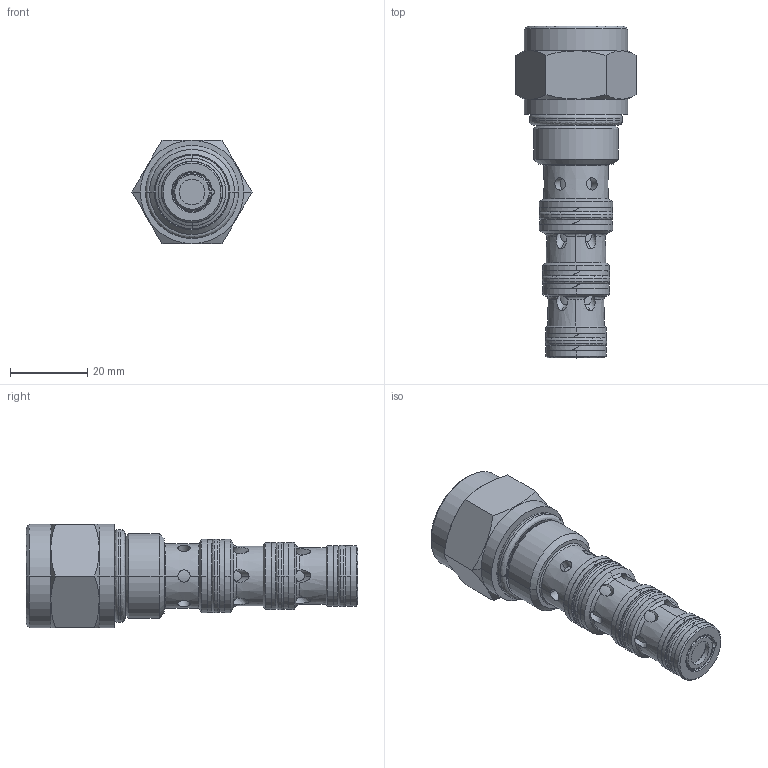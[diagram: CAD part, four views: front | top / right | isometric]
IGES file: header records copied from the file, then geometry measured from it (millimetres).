
Start section:  PTC IGES file: PDCV-10-C-0-A.igs
Global section: file name: PDCV-10-C-0-A.igs; native system: Creo Parametric by PTC Inc.; preprocessor: 2022281; author: salzmanm; organization: Unknown; date: 20241024.095855; units: millimetre
Bounding box: 31.15 x 86.11 x 26.97 mm (x, y, z)
Volume: 29060.2 mm3; surface area: 9007.1 mm2
Topology: 1 solids, 2 shells, 264 faces, 687 edges, 432 vertices
Faces by surface type: revolution 208, bspline 56
